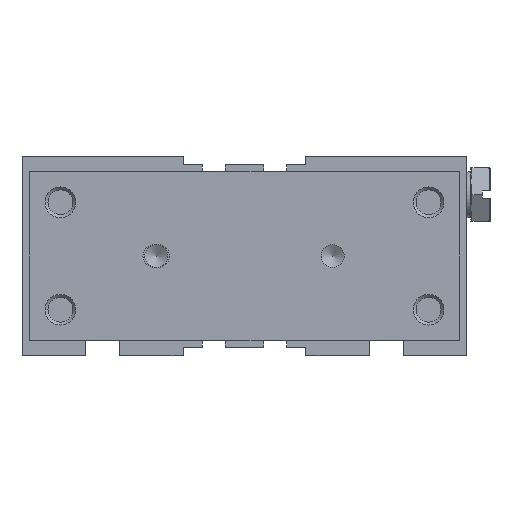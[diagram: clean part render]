
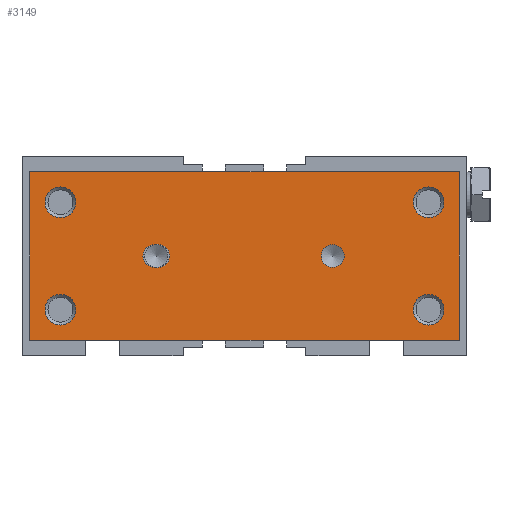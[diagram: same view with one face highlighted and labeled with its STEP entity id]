
A CAD part, left-side view. The second image highlights one B-rep face of the part: STEP entity #3149.
In plain terms, the highlighted planar face has unit normal (-1, 0, 0) as drawn and (0, 0, 1) by its records, which use the part's own axes.
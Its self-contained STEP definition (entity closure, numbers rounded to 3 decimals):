
#348=LINE('',#5112,#570);
#352=LINE('',#5121,#574);
#355=LINE('',#5127,#577);
#358=LINE('',#5133,#580);
#360=LINE('',#5164,#582);
#361=LINE('',#5168,#583);
#570=VECTOR('',#4205,1000.);
#574=VECTOR('',#4211,1000.);
#577=VECTOR('',#4216,1000.);
#580=VECTOR('',#4221,1000.);
#582=VECTOR('',#4253,1000.);
#583=VECTOR('',#4256,1000.);
#1159=ORIENTED_EDGE('',*,*,#1699,.F.);
#1160=ORIENTED_EDGE('',*,*,#1700,.F.);
#1161=ORIENTED_EDGE('',*,*,#1701,.F.);
#1162=ORIENTED_EDGE('',*,*,#1702,.F.);
#1163=ORIENTED_EDGE('',*,*,#1703,.F.);
#1164=ORIENTED_EDGE('',*,*,#1704,.F.);
#1165=ORIENTED_EDGE('',*,*,#1705,.F.);
#1166=ORIENTED_EDGE('',*,*,#1706,.F.);
#1167=ORIENTED_EDGE('',*,*,#1707,.F.);
#1168=ORIENTED_EDGE('',*,*,#1680,.T.);
#1169=ORIENTED_EDGE('',*,*,#1684,.T.);
#1170=ORIENTED_EDGE('',*,*,#1687,.T.);
#1171=ORIENTED_EDGE('',*,*,#1690,.T.);
#1680=EDGE_CURVE('',#2027,#2028,#348,.T.);
#1684=EDGE_CURVE('',#2028,#2031,#352,.T.);
#1687=EDGE_CURVE('',#2031,#2033,#355,.T.);
#1690=EDGE_CURVE('',#2033,#2027,#358,.T.);
#1699=EDGE_CURVE('',#2042,#2042,#2233,.T.);
#1700=EDGE_CURVE('',#2043,#2043,#2234,.T.);
#1701=EDGE_CURVE('',#2044,#2044,#2235,.T.);
#1702=EDGE_CURVE('',#2045,#2045,#2236,.T.);
#1703=EDGE_CURVE('',#2046,#2046,#2237,.T.);
#1704=EDGE_CURVE('',#2047,#2048,#2238,.T.);
#1705=EDGE_CURVE('',#2049,#2047,#360,.T.);
#1706=EDGE_CURVE('',#2050,#2049,#2239,.T.);
#1707=EDGE_CURVE('',#2048,#2050,#361,.T.);
#2027=VERTEX_POINT('',#5113);
#2028=VERTEX_POINT('',#5114);
#2031=VERTEX_POINT('',#5122);
#2033=VERTEX_POINT('',#5128);
#2042=VERTEX_POINT('',#5152);
#2043=VERTEX_POINT('',#5154);
#2044=VERTEX_POINT('',#5156);
#2045=VERTEX_POINT('',#5158);
#2046=VERTEX_POINT('',#5160);
#2047=VERTEX_POINT('',#5162);
#2048=VERTEX_POINT('',#5163);
#2049=VERTEX_POINT('',#5165);
#2050=VERTEX_POINT('',#5167);
#2233=CIRCLE('',#3488,2.);
#2234=CIRCLE('',#3489,2.);
#2235=CIRCLE('',#3490,2.);
#2236=CIRCLE('',#3491,2.);
#2237=CIRCLE('',#3492,1.5);
#2238=CIRCLE('',#3493,1.5);
#2239=CIRCLE('',#3494,1.5);
#2487=EDGE_LOOP('',(#1159));
#2488=EDGE_LOOP('',(#1160));
#2489=EDGE_LOOP('',(#1161));
#2490=EDGE_LOOP('',(#1162));
#2491=EDGE_LOOP('',(#1163));
#2492=EDGE_LOOP('',(#1164,#1165,#1166,#1167));
#2493=EDGE_LOOP('',(#1168,#1169,#1170,#1171));
#2811=FACE_BOUND('',#2487,.T.);
#2812=FACE_BOUND('',#2488,.T.);
#2813=FACE_BOUND('',#2489,.T.);
#2814=FACE_BOUND('',#2490,.T.);
#2815=FACE_BOUND('',#2491,.T.);
#2816=FACE_BOUND('',#2492,.T.);
#2817=FACE_BOUND('',#2493,.T.);
#2988=PLANE('',#3487);
#3149=ADVANCED_FACE('',(#2811,#2812,#2813,#2814,#2815,#2816,#2817),#2988,
 .T.);
#3487=AXIS2_PLACEMENT_3D('',#5150,#4239,#4240);
#3488=AXIS2_PLACEMENT_3D('',#5151,#4241,#4242);
#3489=AXIS2_PLACEMENT_3D('',#5153,#4243,#4244);
#3490=AXIS2_PLACEMENT_3D('',#5155,#4245,#4246);
#3491=AXIS2_PLACEMENT_3D('',#5157,#4247,#4248);
#3492=AXIS2_PLACEMENT_3D('',#5159,#4249,#4250);
#3493=AXIS2_PLACEMENT_3D('',#5161,#4251,#4252);
#3494=AXIS2_PLACEMENT_3D('',#5166,#4254,#4255);
#4205=DIRECTION('',(0.,-1.,0.));
#4211=DIRECTION('',(1.,0.,0.));
#4216=DIRECTION('',(0.,1.,0.));
#4221=DIRECTION('',(-1.,0.,0.));
#4239=DIRECTION('',(0.,0.,1.));
#4240=DIRECTION('',(1.,0.,0.));
#4241=DIRECTION('',(0.,0.,1.));
#4242=DIRECTION('',(1.,0.,0.));
#4243=DIRECTION('',(0.,0.,1.));
#4244=DIRECTION('',(1.,0.,0.));
#4245=DIRECTION('',(0.,0.,1.));
#4246=DIRECTION('',(1.,0.,0.));
#4247=DIRECTION('',(0.,0.,1.));
#4248=DIRECTION('',(1.,0.,0.));
#4249=DIRECTION('',(0.,0.,1.));
#4250=DIRECTION('',(1.,0.,0.));
#4251=DIRECTION('',(0.,0.,1.));
#4252=DIRECTION('',(1.,0.,0.));
#4253=DIRECTION('',(0.,1.,0.));
#4254=DIRECTION('',(0.,0.,1.));
#4255=DIRECTION('',(1.,0.,0.));
#4256=DIRECTION('',(0.,-1.,0.));
#5112=CARTESIAN_POINT('',(-11.,28.,13.));
#5113=CARTESIAN_POINT('',(-11.,28.,13.));
#5114=CARTESIAN_POINT('',(-11.,-28.,13.));
#5121=CARTESIAN_POINT('',(-11.,-28.,13.));
#5122=CARTESIAN_POINT('',(11.,-28.,13.));
#5127=CARTESIAN_POINT('',(11.,-28.,13.));
#5128=CARTESIAN_POINT('',(11.,28.,13.));
#5133=CARTESIAN_POINT('',(11.,28.,13.));
#5150=CARTESIAN_POINT('',(0.,0.,13.));
#5151=CARTESIAN_POINT('',(-7.,24.,13.));
#5152=CARTESIAN_POINT('',(-5.,24.,13.));
#5153=CARTESIAN_POINT('',(7.,24.,13.));
#5154=CARTESIAN_POINT('',(9.,24.,13.));
#5155=CARTESIAN_POINT('',(-7.,-24.,13.));
#5156=CARTESIAN_POINT('',(-5.,-24.,13.));
#5157=CARTESIAN_POINT('',(7.,-24.,13.));
#5158=CARTESIAN_POINT('',(9.,-24.,13.));
#5159=CARTESIAN_POINT('',(0.,-11.5,13.));
#5160=CARTESIAN_POINT('',(1.5,-11.5,13.));
#5161=CARTESIAN_POINT('',(0.,11.75,13.));
#5162=CARTESIAN_POINT('',(1.5,11.75,13.));
#5163=CARTESIAN_POINT('',(-1.5,11.75,13.));
#5164=CARTESIAN_POINT('',(1.5,11.25,13.));
#5165=CARTESIAN_POINT('',(1.5,11.25,13.));
#5166=CARTESIAN_POINT('',(0.,11.25,13.));
#5167=CARTESIAN_POINT('',(-1.5,11.25,13.));
#5168=CARTESIAN_POINT('',(-1.5,11.75,13.));
